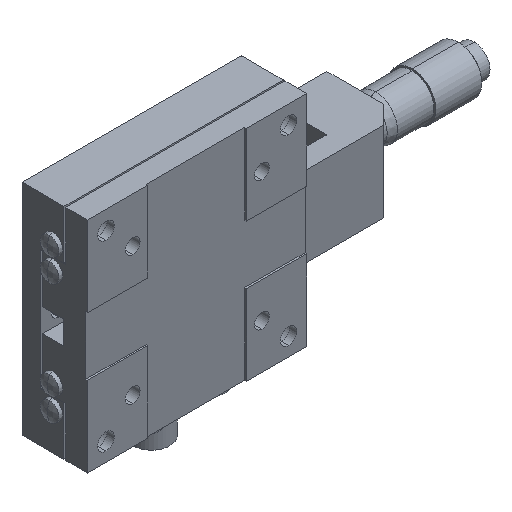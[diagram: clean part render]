
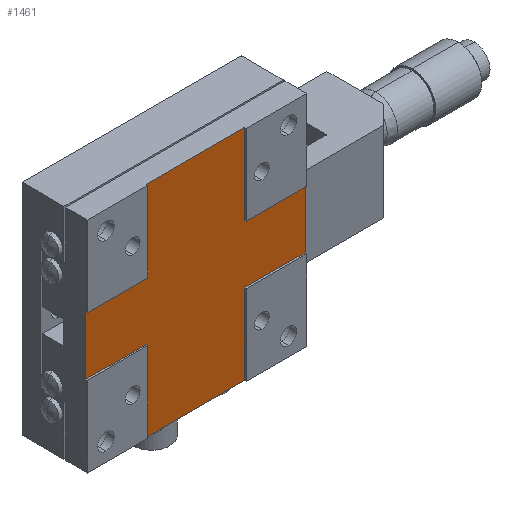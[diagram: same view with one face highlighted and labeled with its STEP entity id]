
A CAD part, isometric view. The second image highlights one B-rep face of the part: STEP entity #1461.
In plain terms, the highlighted planar face has unit normal (0, -1, 0).
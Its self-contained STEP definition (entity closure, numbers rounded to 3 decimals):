
#754 = VERTEX_POINT ( 'NONE', #3862 ) ;
#756 = EDGE_CURVE ( 'NONE', #757, #754, #3861, .T. ) ;
#757 = VERTEX_POINT ( 'NONE', #3893 ) ;
#1019 = EDGE_CURVE ( 'NONE', #1029, #754, #4449, .T. ) ;
#1026 = VERTEX_POINT ( 'NONE', #4396 ) ;
#1028 = EDGE_CURVE ( 'NONE', #1026, #1029, #4395, .T. ) ;
#1029 = VERTEX_POINT ( 'NONE', #4391 ) ;
#1042 = EDGE_CURVE ( 'NONE', #757, #1043, #4374, .T. ) ;
#1043 = VERTEX_POINT ( 'NONE', #4629 ) ;
#1066 = EDGE_CURVE ( 'NONE', #1043, #1067, #4826, .T. ) ;
#1067 = VERTEX_POINT ( 'NONE', #4786 ) ;
#1094 = EDGE_CURVE ( 'NONE', #1026, #1197, #4737, .T. ) ;
#1155 = VERTEX_POINT ( 'NONE', #4614 ) ;
#1162 = EDGE_CURVE ( 'NONE', #1155, #1163, #4608, .T. ) ;
#1163 = VERTEX_POINT ( 'NONE', #4604 ) ;
#1196 = VERTEX_POINT ( 'NONE', #4701 ) ;
#1197 = VERTEX_POINT ( 'NONE', #4700 ) ;
#1199 = EDGE_CURVE ( 'NONE', #1196, #1197, #4699, .T. ) ;
#1386 = ORIENTED_EDGE ( 'NONE', *, *, #1508, .F. ) ;
#1389 = ORIENTED_EDGE ( 'NONE', *, *, #1390, .F. ) ;
#1390 = EDGE_CURVE ( 'NONE', #1391, #1464, #5127, .T. ) ;
#1391 = VERTEX_POINT ( 'NONE', #5119 ) ;
#1392 = ORIENTED_EDGE ( 'NONE', *, *, #1393, .F. ) ;
#1393 = EDGE_CURVE ( 'NONE', #1163, #1391, #5118, .T. ) ;
#1394 = ORIENTED_EDGE ( 'NONE', *, *, #1162, .F. ) ;
#1395 = EDGE_LOOP ( 'NONE', ( #1499, #1500, #1386, #1389, #1392, #1394, #1504, #1506, #1465, #1436, #1437, #1429 ) ) ;
#1429 = ORIENTED_EDGE ( 'NONE', *, *, #1028, .F. ) ;
#1436 = ORIENTED_EDGE ( 'NONE', *, *, #756, .T. ) ;
#1437 = ORIENTED_EDGE ( 'NONE', *, *, #1019, .F. ) ;
#1461 = ADVANCED_FACE ( 'NONE', ( #5157 ), #5156, .T. ) ;
#1464 = VERTEX_POINT ( 'NONE', #5147 ) ;
#1465 = ORIENTED_EDGE ( 'NONE', *, *, #1042, .F. ) ;
#1499 = ORIENTED_EDGE ( 'NONE', *, *, #1094, .T. ) ;
#1500 = ORIENTED_EDGE ( 'NONE', *, *, #1199, .F. ) ;
#1504 = ORIENTED_EDGE ( 'NONE', *, *, #1505, .T. ) ;
#1505 = EDGE_CURVE ( 'NONE', #1155, #1067, #5306, .T. ) ;
#1506 = ORIENTED_EDGE ( 'NONE', *, *, #1066, .F. ) ;
#1508 = EDGE_CURVE ( 'NONE', #1464, #1196, #5302, .T. ) ;
#3861 = LINE ( 'NONE', #3896, #3895 ) ;
#3862 = CARTESIAN_POINT ( 'NONE',  ( -30., 0.5, -8. ) ) ;
#3893 = CARTESIAN_POINT ( 'NONE',  ( -30., 0.5, 8. ) ) ;
#3894 = DIRECTION ( 'NONE',  ( 0., 0., -1. ) ) ;
#3895 = VECTOR ( 'NONE', #3894, 1000. ) ;
#3896 = CARTESIAN_POINT ( 'NONE',  ( -30., 0.5, -3.2 ) ) ;
#4371 = DIRECTION ( 'NONE',  ( 1., 0., 0. ) ) ;
#4372 = VECTOR ( 'NONE', #4371, 1000. ) ;
#4373 = CARTESIAN_POINT ( 'NONE',  ( -30., 0.5, 8. ) ) ;
#4374 = LINE ( 'NONE', #4373, #4372 ) ;
#4391 = CARTESIAN_POINT ( 'NONE',  ( -13.5, 0.5, -8. ) ) ;
#4392 = DIRECTION ( 'NONE',  ( 0., 0., 1. ) ) ;
#4393 = VECTOR ( 'NONE', #4392, 1000. ) ;
#4394 = CARTESIAN_POINT ( 'NONE',  ( -13.5, 0.5, -30. ) ) ;
#4395 = LINE ( 'NONE', #4394, #4393 ) ;
#4396 = CARTESIAN_POINT ( 'NONE',  ( -13.5, 0.5, -30. ) ) ;
#4446 = DIRECTION ( 'NONE',  ( -1., 0., 0. ) ) ;
#4447 = VECTOR ( 'NONE', #4446, 1000. ) ;
#4448 = CARTESIAN_POINT ( 'NONE',  ( -30., 0.5, -8. ) ) ;
#4449 = LINE ( 'NONE', #4448, #4447 ) ;
#4604 = CARTESIAN_POINT ( 'NONE',  ( 13.5, 0.5, 8. ) ) ;
#4605 = DIRECTION ( 'NONE',  ( 0., 0., -1. ) ) ;
#4606 = VECTOR ( 'NONE', #4605, 1000. ) ;
#4607 = CARTESIAN_POINT ( 'NONE',  ( 13.5, 0.5, 30. ) ) ;
#4608 = LINE ( 'NONE', #4607, #4606 ) ;
#4614 = CARTESIAN_POINT ( 'NONE',  ( 13.5, 0.5, 30. ) ) ;
#4629 = CARTESIAN_POINT ( 'NONE',  ( -13.5, 0.5, 8. ) ) ;
#4696 = DIRECTION ( 'NONE',  ( 0., 0., -1. ) ) ;
#4697 = VECTOR ( 'NONE', #4696, 1000. ) ;
#4698 = CARTESIAN_POINT ( 'NONE',  ( 13.5, 0.5, -30. ) ) ;
#4699 = LINE ( 'NONE', #4698, #4697 ) ;
#4700 = CARTESIAN_POINT ( 'NONE',  ( 13.5, 0.5, -30. ) ) ;
#4701 = CARTESIAN_POINT ( 'NONE',  ( 13.5, 0.5, -8. ) ) ;
#4734 = DIRECTION ( 'NONE',  ( 1., 0., 0. ) ) ;
#4735 = VECTOR ( 'NONE', #4734, 1000. ) ;
#4736 = CARTESIAN_POINT ( 'NONE',  ( -30., 0.5, -30. ) ) ;
#4737 = LINE ( 'NONE', #4736, #4735 ) ;
#4786 = CARTESIAN_POINT ( 'NONE',  ( -13.5, 0.5, 30. ) ) ;
#4787 = DIRECTION ( 'NONE',  ( 0., 0., 1. ) ) ;
#4788 = VECTOR ( 'NONE', #4787, 1000. ) ;
#4789 = CARTESIAN_POINT ( 'NONE',  ( -13.5, 0.5, 30. ) ) ;
#4826 = LINE ( 'NONE', #4789, #4788 ) ;
#5115 = DIRECTION ( 'NONE',  ( 1., 0., 0. ) ) ;
#5116 = VECTOR ( 'NONE', #5115, 1000. ) ;
#5117 = CARTESIAN_POINT ( 'NONE',  ( 30., 0.5, 8. ) ) ;
#5118 = LINE ( 'NONE', #5117, #5116 ) ;
#5119 = CARTESIAN_POINT ( 'NONE',  ( 30., 0.5, 8. ) ) ;
#5120 = DIRECTION ( 'NONE',  ( 0., 0., -1. ) ) ;
#5121 = VECTOR ( 'NONE', #5120, 1000. ) ;
#5122 = CARTESIAN_POINT ( 'NONE',  ( 30., 0.5, -3.2 ) ) ;
#5127 = LINE ( 'NONE', #5122, #5121 ) ;
#5147 = CARTESIAN_POINT ( 'NONE',  ( 30., 0.5, -8. ) ) ;
#5152 = DIRECTION ( 'NONE',  ( 0., 0., 1. ) ) ;
#5153 = DIRECTION ( 'NONE',  ( 0., -1., 0. ) ) ;
#5154 = CARTESIAN_POINT ( 'NONE',  ( 0., 0.5, 0. ) ) ;
#5155 = AXIS2_PLACEMENT_3D ( 'NONE', #5154, #5153, #5152 ) ;
#5156 = PLANE ( 'NONE',  #5155 ) ;
#5157 = FACE_OUTER_BOUND ( 'NONE', #1395, .T. ) ;
#5299 = DIRECTION ( 'NONE',  ( -1., 0., 0. ) ) ;
#5300 = VECTOR ( 'NONE', #5299, 1000. ) ;
#5301 = CARTESIAN_POINT ( 'NONE',  ( 30., 0.5, -8. ) ) ;
#5302 = LINE ( 'NONE', #5301, #5300 ) ;
#5303 = DIRECTION ( 'NONE',  ( -1., 0., 0. ) ) ;
#5304 = VECTOR ( 'NONE', #5303, 1000. ) ;
#5305 = CARTESIAN_POINT ( 'NONE',  ( -30., 0.5, 30. ) ) ;
#5306 = LINE ( 'NONE', #5305, #5304 ) ;
